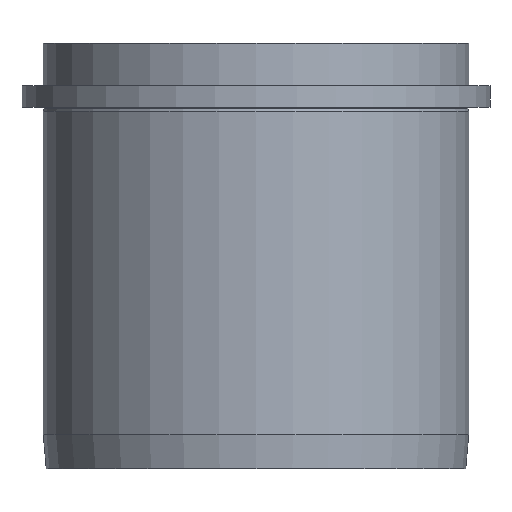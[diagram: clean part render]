
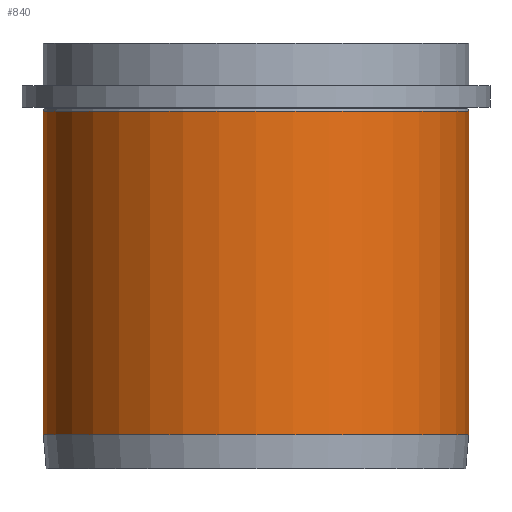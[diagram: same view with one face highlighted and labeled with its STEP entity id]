
A CAD part, left-side view. The second image highlights one B-rep face of the part: STEP entity #840.
In plain terms, the highlighted cylindrical face has radius 100 mm (diameter 200 mm), a partial arc.
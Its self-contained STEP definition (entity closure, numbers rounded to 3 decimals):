
#172=CARTESIAN_POINT('Axis2P3D Location',(0.,0.,100.)) ;
#573=CARTESIAN_POINT('Vertex',(0.,-100.,168.)) ;
#580=CARTESIAN_POINT('Vertex',(0.,100.,168.)) ;
#595=CARTESIAN_POINT('Axis2P3D Location',(0.,0.,168.)) ;
#728=CARTESIAN_POINT('Axis2P3D Location',(0.,0.,16.)) ;
#732=CARTESIAN_POINT('Vertex',(0.,100.,16.)) ;
#734=CARTESIAN_POINT('Vertex',(0.,-100.,16.)) ;
#799=CARTESIAN_POINT('Line Origine',(0.,-100.,91.)) ;
#803=CARTESIAN_POINT('Vertex',(0.,-100.,166.)) ;
#806=CARTESIAN_POINT('Line Origine',(0.,100.,91.)) ;
#810=CARTESIAN_POINT('Vertex',(0.,100.,166.)) ;
#813=CARTESIAN_POINT('Line Origine',(0.,100.,91.)) ;
#818=CARTESIAN_POINT('Line Origine',(0.,-100.,91.)) ;
#173=DIRECTION('Axis2P3D Direction',(0.,0.,1.)) ;
#174=DIRECTION('Axis2P3D XDirection',(0.,1.,0.)) ;
#596=DIRECTION('Axis2P3D Direction',(0.,-0.,-1.)) ;
#729=DIRECTION('Axis2P3D Direction',(0.,0.,1.)) ;
#800=DIRECTION('Vector Direction',(0.,0.,1.)) ;
#807=DIRECTION('Vector Direction',(0.,0.,1.)) ;
#814=DIRECTION('Vector Direction',(0.,0.,1.)) ;
#819=DIRECTION('Vector Direction',(0.,0.,1.)) ;
#175=AXIS2_PLACEMENT_3D('Cylinder Axis2P3D',#172,#173,#174) ;
#597=AXIS2_PLACEMENT_3D('Circle Axis2P3D',#595,#596,$) ;
#730=AXIS2_PLACEMENT_3D('Circle Axis2P3D',#728,#729,$) ;
#833=ORIENTED_EDGE('',*,*,#805,.T.) ;
#834=ORIENTED_EDGE('',*,*,#822,.F.) ;
#835=ORIENTED_EDGE('',*,*,#599,.F.) ;
#836=ORIENTED_EDGE('',*,*,#817,.T.) ;
#837=ORIENTED_EDGE('',*,*,#812,.F.) ;
#838=ORIENTED_EDGE('',*,*,#736,.T.) ;
#801=VECTOR('Line Direction',#800,1.) ;
#808=VECTOR('Line Direction',#807,1.) ;
#815=VECTOR('Line Direction',#814,1.) ;
#820=VECTOR('Line Direction',#819,1.) ;
#840=ADVANCED_FACE('PartBody',(#839),#176,.T.) ;
#598=CIRCLE('generated circle',#597,100.) ;
#731=CIRCLE('generated circle',#730,100.) ;
#176=CYLINDRICAL_SURFACE('generated cylinder',#175,100.) ;
#599=EDGE_CURVE('',#581,#574,#598,.F.) ;
#736=EDGE_CURVE('',#733,#735,#731,.T.) ;
#805=EDGE_CURVE('',#735,#804,#802,.T.) ;
#812=EDGE_CURVE('',#733,#811,#809,.T.) ;
#817=EDGE_CURVE('',#581,#811,#816,.F.) ;
#822=EDGE_CURVE('',#574,#804,#821,.F.) ;
#832=EDGE_LOOP('',(#833,#834,#835,#836,#837,#838)) ;
#839=FACE_OUTER_BOUND('',#832,.T.) ;
#802=LINE('Line',#799,#801) ;
#809=LINE('Line',#806,#808) ;
#816=LINE('Line',#813,#815) ;
#821=LINE('Line',#818,#820) ;
#574=VERTEX_POINT('',#573) ;
#581=VERTEX_POINT('',#580) ;
#733=VERTEX_POINT('',#732) ;
#735=VERTEX_POINT('',#734) ;
#804=VERTEX_POINT('',#803) ;
#811=VERTEX_POINT('',#810) ;
